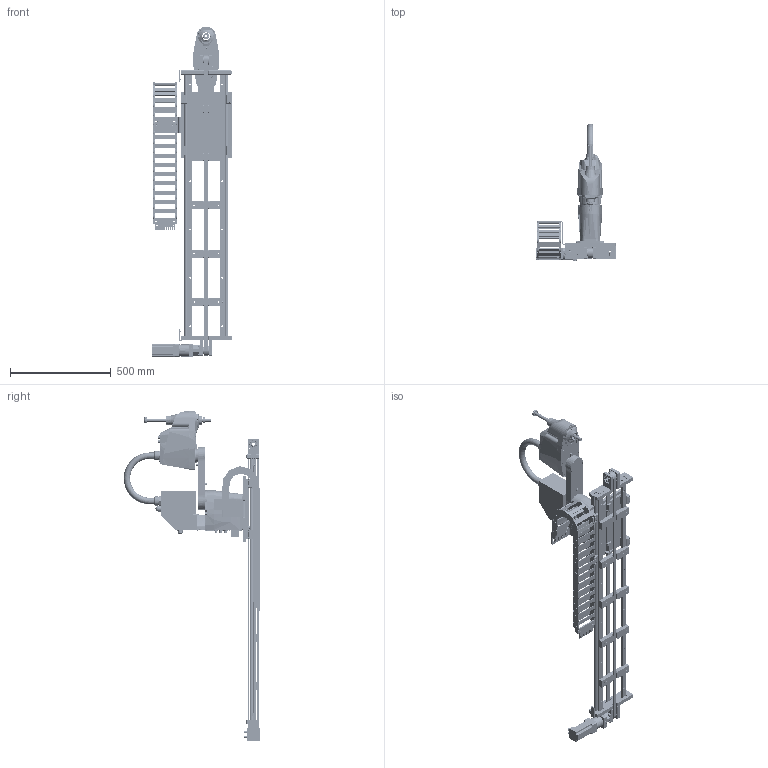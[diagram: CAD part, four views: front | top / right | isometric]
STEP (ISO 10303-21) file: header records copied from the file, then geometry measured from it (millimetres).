
FILE_DESCRIPTION(/* description */ (''),/* implementation_level */ '2;1');
FILE_NAME(/* name */ 'I:\Gleitlager\Konstruktion\SERIE NEU (im Aufbau!!)\drylin LCA\7. Achse\ZLW-20200S-7TH-EPS-01-xxxx\Epson\T3\ZLW-20200S-7TH-EPS-01-1000 + T3.stp',/* time_stamp */ '2021-04-20T15:02:20+02:00',/* author */ ('fkleine'),/* organization */ (''),/* preprocessor_version */ 'ST-DEVELOPER v18.1',/* originating_system */ 'Autodesk Inventor 2020',/* authorisation */ '');
FILE_SCHEMA (('AUTOMOTIVE_DESIGN { 1 0 10303 214 3 1 1 }'));
Products named in the file (50): ZLW-20200S-7TH-EPS-01-xxxx; ZLW-20200S-K0BX0-D0K4B-BX0F0AE-xxxx; ZT-20200; ZTY-20200-001; NOR-10525; ZTY-20120-002; MH-06; NOR-20950; ZTY-20120-016; NOR-20516; NOR-10518; ZR-20120-001-ES-3028; WS-20-1340-C5=C6=70; ZSY-20200-001; NOR-10639; ZW-20200-300-WJ200UMA; ZWY-20200-001-300; ZWY-20120-003; GFM-0607-06; ZWY-20120-002; NOR-10601; NOR-10602; WJ200UMA-01-20-AL; WMA-01-20-AL; WRZ-012001; J200UMA-01-20-K; NOR-10590; MK-0517; COU-AR-K-140-140-42-40-B-AAAA; GEA-60-5-60-ST-080; E-GEA-60-10-60-ST; ZTY-1040109; NOR-11003; NOR-10552; MF-20120-GEAR60-S; ZTY-20120-018; ZTY-20120-006; NOR-10607; NOR-10610; MOT-AN-S-060-035-060-M-C-AAAC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
Assembly tree (103 placements, depth 5):
  ZLW-20200S-7TH-EPS-01-xxxx
    ZLW-20200S-K0BX0-D0K4B-BX0F0AE-xxxx
      ZT-20200  x2
        ZTY-20200-001
        NOR-10525
        MH-06
        ZTY-20120-002
        NOR-20950
        ZTY-20120-016
        NOR-20516
        NOR-10518
      ZR-20120-001-ES-3028
      WS-20-1340-C5=C6=70  x2
      ZSY-20200-001  x5
      NOR-10639  x10
      ZW-20200-300-WJ200UMA
        ZWY-20200-001-300
        ZWY-20120-002  x2
        ZWY-20120-003
        GFM-0607-06
        WJ200UMA-01-20-AL  x4
          WMA-01-20-AL
          WRZ-012001
          J200UMA-01-20-K
        NOR-10601  x6
        NOR-10602  x4
        NOR-10590
      IK-0107  x2
        INI-AB-I-025-B-AA
        ZTY-20120-029
        NOR-10129
        NOR-10726
      MK-0517
        COU-AR-K-140-140-42-40-B-AAAA
        GEA-60-5-60-ST-080
          E-GEA-60-10-60-ST
          ZTY-1040109
          NOR-11003  x4
          NOR-10552  x4
        MF-20120-GEAR60-S
          ZTY-20120-018
          ZTY-20120-006
          NOR-10607  x4
          NOR-10610  x8
        MOT-AN-S-060-035-060-M-C-AAAC
          1
          2
    2400_10_1
    AK-D00308495
    T3
Bounding box: 393.2 x 678.4 x 1642.75 mm (x, y, z)
Volume: 19984458.4 mm3; surface area: 2888884.4 mm2
Topology: 155 solids, 159 shells, 8767 faces, 23931 edges, 15900 vertices
Faces by surface type: plane 5614, cylinder 1911, cone 580, bspline 321, torus 304, sphere 37
Full cylindrical faces by diameter (mm): 1 x15, 1.948 x2, 2.013 x4, 2.26 x2, 2.3 x2, 2.459 x12, 2.5 x20, 2.6 x2, 2.8 x9, 3 x10, 3.242 x15, 3.5 x2, 4 x9, 4.134 x23, 4.2 x4, 4.3 x4, 4.5 x2, 4.917 x17, 5 x22, 5.3 x2, 5.4 x11, 5.5 x25, 6 x40, 6.1 x3, 6.2 x4, 6.6 x1, 6.647 x38, 7 x46, 8 x67, 8.05 x1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
Entity records: 202322 total; most frequent: CARTESIAN_POINT 42803, ORIENTED_EDGE 32394, DIRECTION 31167, EDGE_CURVE 16205, LINE 11363, VECTOR 11363, VERTEX_POINT 10803, AXIS2_PLACEMENT_3D 9902
